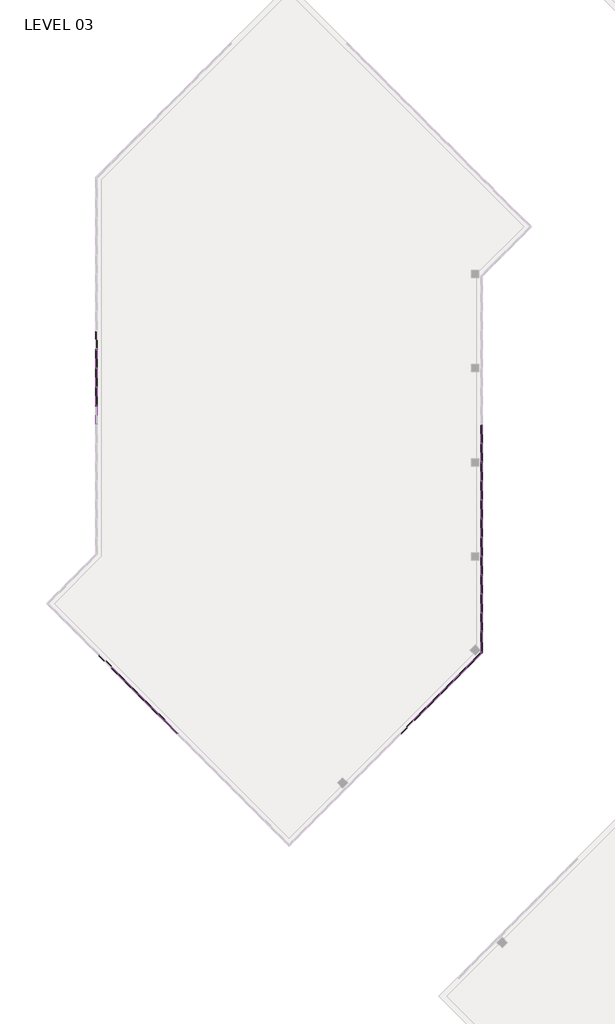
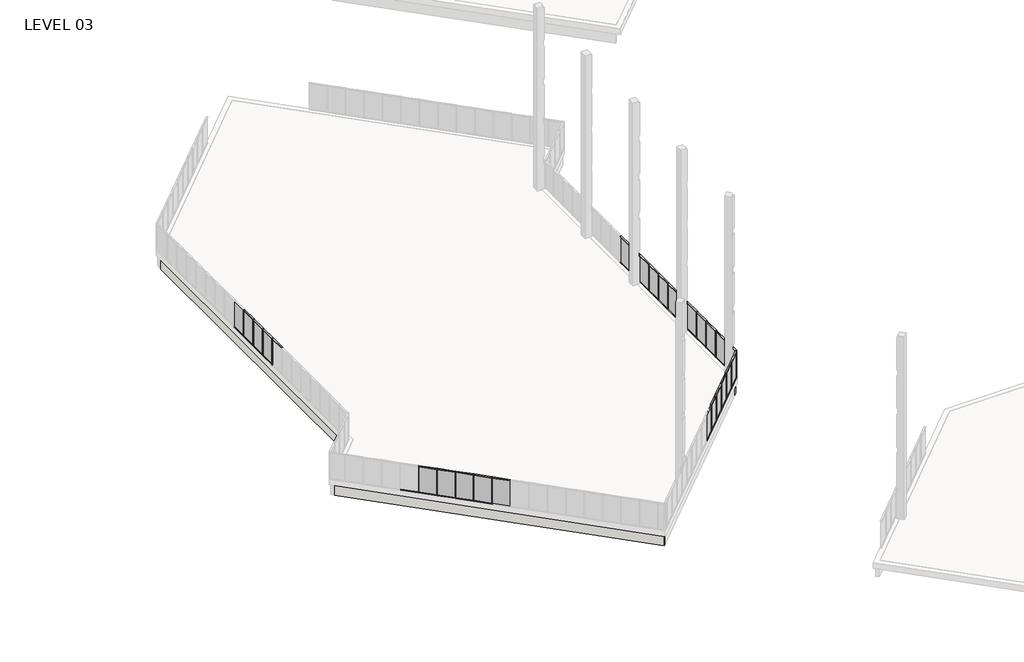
# One storey, part 4 of 18: 80 members, 27 plates, 3 walls.
"""IFC4 building model written with IfcOpenShell, lengths in millimetres."""

from ifc_helpers import new_model, si_unit, origin, place, context, project, spatial, faceted_brep, transform, mapped, element, save
from components import member_5247f267, member_e44af9ab, member_800970d4, member_c23f844a, member_1bd862b2, member_c975838b, member_ed9c17d6, plate_67294edd, plate_50b9cd61, plate_bbcbcabf, plate_db5d6751, plate_e0fd5134, plate_dca6a18a

model = new_model("IFC4")

# Units and contexts
model_context = context("Model", 3, world=origin())
ifc_project = project(units=[si_unit("LENGTHUNIT", "METRE", prefix="MILLI")], contexts=[model_context])

# Site, building, storey
site = spatial("IfcSite", under=ifc_project)
building = spatial("IfcBuilding", under=site)
storey = spatial("IfcBuildingStorey", under=building, Name="LEVEL 03", Elevation=8280.4)

# Members
placement = place(None, origin())
member_shape = member_5247f267(model_context)
element("IfcMember", 1, ObjectType="Rectangular Mullion : 2\" x 4.5\" rectangular", at=placement, inside=storey, context=model_context, shape_type="MappedRepresentation", body=[
    mapped(member_shape, transform((-1611.8847164, 49110.5675885, 10871.2), x_axis=(0.0, 0.0, 1.0), y_axis=(1.0, 0.0, 0.0), z_axis=(0.0, 1.0, 0.0))),
])
element("IfcMember", 2, ObjectType="Rectangular Mullion : 2\" x 4.5\" rectangular", at=placement, inside=storey, context=model_context, shape_type="MappedRepresentation", body=[
    mapped(member_shape, transform((-1611.8847164, 50634.5675885, 10871.2), x_axis=(0.0, 0.0, 1.0), y_axis=(1.0, 0.0, 0.0), z_axis=(0.0, 1.0, 0.0))),
])
element("IfcMember", 3, ObjectType="Rectangular Mullion : 2\" x 4.5\" rectangular", at=placement, inside=storey, context=model_context, shape_type="MappedRepresentation", body=[
    mapped(member_shape, transform((-1611.8847164, 52158.5675885, 10871.2), x_axis=(0.0, 0.0, 1.0), y_axis=(1.0, 0.0, 0.0), z_axis=(0.0, 1.0, 0.0))),
])
element("IfcMember", 4, ObjectType="Rectangular Mullion : 2\" x 4.5\" rectangular", at=placement, inside=storey, context=model_context, shape_type="MappedRepresentation", body=[
    mapped(member_shape, transform((-1611.8847164, 55206.5675885, 10871.2), x_axis=(0.0, 0.0, 1.0), y_axis=(1.0, 0.0, 0.0), z_axis=(0.0, 1.0, 0.0))),
])
element("IfcMember", 5, ObjectType="Rectangular Mullion : 2\" x 4.5\" rectangular", at=placement, inside=storey, context=model_context, shape_type="MappedRepresentation", body=[
    mapped(member_shape, transform((-1611.8847164, 56730.5675885, 10871.2), x_axis=(0.0, 0.0, 1.0), y_axis=(1.0, 0.0, 0.0), z_axis=(0.0, 1.0, 0.0))),
])
element("IfcMember", 6, ObjectType="Rectangular Mullion : 2\" x 4.5\" rectangular", at=placement, inside=storey, context=model_context, shape_type="MappedRepresentation", body=[
    mapped(member_shape, transform((-3866.0742688, 36048.0719005, 10871.2), x_axis=(0.0, 0.0, 1.0), y_axis=(-0.7071067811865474, 0.7071067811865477, 0.0), z_axis=(-0.7071067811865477, -0.7071067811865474, 0.0))),
])
element("IfcMember", 7, ObjectType="Rectangular Mullion : 2\" x 4.5\" rectangular", at=placement, inside=storey, context=model_context, shape_type="MappedRepresentation", body=[
    mapped(member_shape, transform((-4943.7050033, 34970.441166, 10871.2), x_axis=(0.0, 0.0, 1.0), y_axis=(-0.707106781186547, 0.707106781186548, 0.0), z_axis=(-0.707106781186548, -0.707106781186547, 0.0))),
])
element("IfcMember", 8, ObjectType="Rectangular Mullion : 2\" x 4.5\" rectangular", at=placement, inside=storey, context=model_context, shape_type="MappedRepresentation", body=[
    mapped(member_shape, transform((-6021.3357378, 33892.8104315, 10871.2), x_axis=(0.0, 0.0, 1.0), y_axis=(-0.7071067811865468, 0.7071067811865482, 0.0), z_axis=(-0.7071067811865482, -0.7071067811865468, 0.0))),
])
element("IfcMember", 9, ObjectType="Rectangular Mullion : 2\" x 4.5\" rectangular", at=placement, inside=storey, context=model_context, shape_type="MappedRepresentation", body=[
    mapped(member_shape, transform((-32784.0347164, 58254.5675885, 10871.2), x_axis=(0.0, 0.0, 1.0), y_axis=(1.0, 0.0, 0.0), z_axis=(0.0, 1.0, 0.0))),
])
element("IfcMember", 10, ObjectType="Rectangular Mullion : 2\" x 4.5\" rectangular", at=placement, inside=storey, context=model_context, shape_type="MappedRepresentation", body=[
    mapped(member_shape, transform((-32784.0347164, 59778.5675885, 10871.2), x_axis=(0.0, 0.0, 1.0), y_axis=(1.0, 0.0, 0.0), z_axis=(0.0, 1.0, 0.0))),
])
element("IfcMember", 11, ObjectType="Rectangular Mullion : 2\" x 4.5\" rectangular", at=placement, inside=storey, context=model_context, shape_type="MappedRepresentation", body=[
    mapped(member_shape, transform((-32784.0347164, 62826.5675885, 10871.2), x_axis=(0.0, 0.0, 1.0), y_axis=(1.0, 0.0, 0.0), z_axis=(0.0, 1.0, 0.0))),
])
element("IfcMember", 12, ObjectType="Rectangular Mullion : 2\" x 4.5\" rectangular", at=placement, inside=storey, context=model_context, shape_type="MappedRepresentation", body=[
    mapped(member_shape, transform((-32784.0347164, 61302.5675885, 10871.2), x_axis=(0.0, 0.0, 1.0), y_axis=(1.0, 0.0, 0.0), z_axis=(0.0, 1.0, 0.0))),
])
element("IfcMember", 13, ObjectType="Rectangular Mullion : 2\" x 4.5\" rectangular", at=placement, inside=storey, context=model_context, shape_type="MappedRepresentation", body=[
    mapped(member_shape, transform((-1611.8847164, 53682.5675885, 10871.2), x_axis=(0.0, 0.0, 1.0), y_axis=(1.0, 0.0, 0.0), z_axis=(0.0, 1.0, 0.0))),
])
element("IfcMember", 14, ObjectType="Rectangular Mullion : 2\" x 4.5\" rectangular", at=placement, inside=storey, context=model_context, shape_type="MappedRepresentation", body=[
    mapped(member_shape, transform((-1611.8847164, 47586.5675885, 10871.2), x_axis=(0.0, 0.0, 1.0), y_axis=(1.0, 0.0, 0.0), z_axis=(0.0, 1.0, 0.0))),
])
element("IfcMember", 15, ObjectType="Rectangular Mullion : 2\" x 4.5\" rectangular", at=placement, inside=storey, context=model_context, shape_type="MappedRepresentation", body=[
    mapped(member_shape, transform((-1611.8847164, 46062.5675885, 10871.2), x_axis=(0.0, 0.0, 1.0), y_axis=(1.0, 0.0, 0.0), z_axis=(0.0, 1.0, 0.0))),
])
element("IfcMember", 16, ObjectType="Rectangular Mullion : 2\" x 4.5\" rectangular", at=placement, inside=storey, context=model_context, shape_type="MappedRepresentation", body=[
    mapped(member_shape, transform((-1611.8847164, 44538.5675885, 10871.2), x_axis=(0.0, 0.0, 1.0), y_axis=(1.0, 0.0, 0.0), z_axis=(0.0, 1.0, 0.0))),
])
element("IfcMember", 17, ObjectType="Rectangular Mullion : 2\" x 4.5\" rectangular", at=placement, inside=storey, context=model_context, shape_type="MappedRepresentation", body=[
    mapped(member_shape, transform((-1611.8847164, 43014.5675885, 10871.2), x_axis=(0.0, 0.0, 1.0), y_axis=(1.0, 0.0, 0.0), z_axis=(0.0, 1.0, 0.0))),
])
element("IfcMember", 18, ObjectType="Rectangular Mullion : 2\" x 4.5\" rectangular", at=placement, inside=storey, context=model_context, shape_type="MappedRepresentation", body=[
    mapped(member_shape, transform((-1611.8847164, 41490.5675885, 10871.2), x_axis=(0.0, 0.0, 1.0), y_axis=(1.0, 0.0, 0.0), z_axis=(0.0, 1.0, 0.0))),
])
element("IfcMember", 19, ObjectType="Rectangular Mullion : 2\" x 4.5\" rectangular", at=placement, inside=storey, context=model_context, shape_type="MappedRepresentation", body=[
    mapped(member_shape, transform((-7098.9590715, 32815.1870978, 10871.2), x_axis=(0.0, 0.0, 1.0), y_axis=(-0.7071067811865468, 0.7071067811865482, 0.0), z_axis=(-0.7071067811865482, -0.7071067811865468, 0.0))),
])
element("IfcMember", 20, ObjectType="Rectangular Mullion : 2\" x 4.5\" rectangular", at=placement, inside=storey, context=model_context, shape_type="MappedRepresentation", body=[
    mapped(member_shape, transform((-1611.8847164, 49161.3675885, 8280.4), x_axis=(0.0, 0.0, -1.0), y_axis=(1.0, 0.0, 0.0), z_axis=(0.0, -1.0, 0.0))),
])
element("IfcMember", 21, ObjectType="Rectangular Mullion : 2\" x 4.5\" rectangular", at=placement, inside=storey, context=model_context, shape_type="MappedRepresentation", body=[
    mapped(member_shape, transform((-1611.8847164, 50685.3675885, 8280.4), x_axis=(0.0, 0.0, -1.0), y_axis=(1.0, 0.0, 0.0), z_axis=(0.0, -1.0, 0.0))),
])
element("IfcMember", 22, ObjectType="Rectangular Mullion : 2\" x 4.5\" rectangular", at=placement, inside=storey, context=model_context, shape_type="MappedRepresentation", body=[
    mapped(member_shape, transform((-1611.8847164, 52209.3675885, 8280.4), x_axis=(0.0, 0.0, -1.0), y_axis=(1.0, 0.0, 0.0), z_axis=(0.0, -1.0, 0.0))),
])
element("IfcMember", 23, ObjectType="Rectangular Mullion : 2\" x 4.5\" rectangular", at=placement, inside=storey, context=model_context, shape_type="MappedRepresentation", body=[
    mapped(member_shape, transform((-1611.8847164, 55257.3675885, 8280.4), x_axis=(0.0, 0.0, -1.0), y_axis=(1.0, 0.0, 0.0), z_axis=(0.0, -1.0, 0.0))),
])
element("IfcMember", 24, ObjectType="Rectangular Mullion : 2\" x 4.5\" rectangular", at=placement, inside=storey, context=model_context, shape_type="MappedRepresentation", body=[
    mapped(member_shape, transform((-3901.9952932, 36012.1508761, 8280.4), x_axis=(0.0, 0.0, -1.0), y_axis=(-0.7071067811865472, 0.7071067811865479, 0.0), z_axis=(0.7071067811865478, 0.7071067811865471, 0.0))),
])
element("IfcMember", 25, ObjectType="Rectangular Mullion : 2\" x 4.5\" rectangular", at=placement, inside=storey, context=model_context, shape_type="MappedRepresentation", body=[
    mapped(member_shape, transform((-4979.6260278, 34934.5201415, 8280.4), x_axis=(0.0, 0.0, -1.0), y_axis=(-0.7071067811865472, 0.7071067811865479, 0.0), z_axis=(0.7071067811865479, 0.7071067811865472, 0.0))),
])
element("IfcMember", 26, ObjectType="Rectangular Mullion : 2\" x 4.5\" rectangular", at=placement, inside=storey, context=model_context, shape_type="MappedRepresentation", body=[
    mapped(member_shape, transform((-6057.2567623, 33856.889407, 8280.4), x_axis=(0.0, 0.0, -1.0), y_axis=(-0.7071067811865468, 0.7071067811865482, 0.0), z_axis=(0.7071067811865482, 0.7071067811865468, 0.0))),
])
element("IfcMember", 27, ObjectType="Rectangular Mullion : 2\" x 4.5\" rectangular", at=placement, inside=storey, context=model_context, shape_type="MappedRepresentation", body=[
    mapped(member_shape, transform((-31583.4219356, 37101.6486721, 8280.4), x_axis=(0.0, 0.0, -1.0), y_axis=(0.7071067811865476, 0.7071067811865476, 0.0), z_axis=(0.7071067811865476, -0.7071067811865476, 0.0))),
])
element("IfcMember", 28, ObjectType="Rectangular Mullion : 2\" x 4.5\" rectangular", at=placement, inside=storey, context=model_context, shape_type="MappedRepresentation", body=[
    mapped(member_shape, transform((-32784.0347164, 58305.3675885, 8280.4), x_axis=(0.0, 0.0, -1.0), y_axis=(1.0, 0.0, 0.0), z_axis=(0.0, -1.0, 0.0))),
])
element("IfcMember", 29, ObjectType="Rectangular Mullion : 2\" x 4.5\" rectangular", at=placement, inside=storey, context=model_context, shape_type="MappedRepresentation", body=[
    mapped(member_shape, transform((-32784.0347164, 59829.3675885, 8280.4), x_axis=(0.0, 0.0, -1.0), y_axis=(1.0, 0.0, 0.0), z_axis=(0.0, -1.0, 0.0))),
])
element("IfcMember", 30, ObjectType="Rectangular Mullion : 2\" x 4.5\" rectangular", at=placement, inside=storey, context=model_context, shape_type="MappedRepresentation", body=[
    mapped(member_shape, transform((-32784.0347164, 62877.3675885, 8280.4), x_axis=(0.0, 0.0, -1.0), y_axis=(1.0, 0.0, 0.0), z_axis=(0.0, -1.0, 0.0))),
])
element("IfcMember", 31, ObjectType="Rectangular Mullion : 2\" x 4.5\" rectangular", at=placement, inside=storey, context=model_context, shape_type="MappedRepresentation", body=[
    mapped(member_shape, transform((-32784.0347164, 61353.3675885, 8280.4), x_axis=(0.0, 0.0, -1.0), y_axis=(1.0, 0.0, 0.0), z_axis=(0.0, -1.0, 0.0))),
])
element("IfcMember", 32, ObjectType="Rectangular Mullion : 2\" x 4.5\" rectangular", at=placement, inside=storey, context=model_context, shape_type="MappedRepresentation", body=[
    mapped(member_shape, transform((-1611.8847164, 53733.3675885, 8280.4), x_axis=(0.0, 0.0, -1.0), y_axis=(1.0, 0.0, 0.0), z_axis=(0.0, -1.0, 0.0))),
])
element("IfcMember", 33, ObjectType="Rectangular Mullion : 2\" x 4.5\" rectangular", at=placement, inside=storey, context=model_context, shape_type="MappedRepresentation", body=[
    mapped(member_shape, transform((-1611.8847164, 47637.3675885, 8280.4), x_axis=(0.0, 0.0, -1.0), y_axis=(1.0, 0.0, 0.0), z_axis=(0.0, -1.0, 0.0))),
])
element("IfcMember", 34, ObjectType="Rectangular Mullion : 2\" x 4.5\" rectangular", at=placement, inside=storey, context=model_context, shape_type="MappedRepresentation", body=[
    mapped(member_shape, transform((-1611.8847164, 46113.3675885, 8280.4), x_axis=(0.0, 0.0, -1.0), y_axis=(1.0, 0.0, 0.0), z_axis=(0.0, -1.0, 0.0))),
])
element("IfcMember", 35, ObjectType="Rectangular Mullion : 2\" x 4.5\" rectangular", at=placement, inside=storey, context=model_context, shape_type="MappedRepresentation", body=[
    mapped(member_shape, transform((-1611.8847164, 44589.3675885, 8280.4), x_axis=(0.0, 0.0, -1.0), y_axis=(1.0, 0.0, 0.0), z_axis=(0.0, -1.0, 0.0))),
])
element("IfcMember", 36, ObjectType="Rectangular Mullion : 2\" x 4.5\" rectangular", at=placement, inside=storey, context=model_context, shape_type="MappedRepresentation", body=[
    mapped(member_shape, transform((-1611.8847164, 43065.3675885, 8280.4), x_axis=(0.0, 0.0, -1.0), y_axis=(1.0, 0.0, 0.0), z_axis=(0.0, -1.0, 0.0))),
])
element("IfcMember", 37, ObjectType="Rectangular Mullion : 2\" x 4.5\" rectangular", at=placement, inside=storey, context=model_context, shape_type="MappedRepresentation", body=[
    mapped(member_shape, transform((-1611.8847164, 41541.3675885, 8280.4), x_axis=(0.0, 0.0, -1.0), y_axis=(1.0, 0.0, 0.0), z_axis=(0.0, -1.0, 0.0))),
])
element("IfcMember", 38, ObjectType="Rectangular Mullion : 2\" x 4.5\" rectangular", at=placement, inside=storey, context=model_context, shape_type="MappedRepresentation", body=[
    mapped(member_shape, transform((-1611.8847164, 40017.3675885, 8280.4), x_axis=(0.0, 0.0, -1.0), y_axis=(1.0, 0.0, 0.0), z_axis=(0.0, -1.0, 0.0))),
])
element("IfcMember", 39, ObjectType="Rectangular Mullion : 2\" x 4.5\" rectangular", at=placement, inside=storey, context=model_context, shape_type="MappedRepresentation", body=[
    mapped(member_shape, transform((-2824.3645587, 37089.7816106, 8280.4), x_axis=(0.0, 0.0, -1.0), y_axis=(-0.707106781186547, 0.7071067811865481, 0.0), z_axis=(0.707106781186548, 0.7071067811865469, 0.0))),
])
element("IfcMember", 40, ObjectType="Rectangular Mullion : 2\" x 4.5\" rectangular", at=placement, inside=storey, context=model_context, shape_type="MappedRepresentation", body=[
    mapped(member_shape, transform((-7134.880096, 32779.2660733, 8280.4), x_axis=(0.0, 0.0, -1.0), y_axis=(-0.7071067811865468, 0.7071067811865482, 0.0), z_axis=(0.7071067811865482, 0.7071067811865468, 0.0))),
])
member_2_shape = member_e44af9ab(model_context)
element("IfcMember", 41, ObjectType="Rectangular Mullion : 2\" x 4.5\" rectangular", at=placement, inside=storey, context=model_context, shape_type="MappedRepresentation", body=[
    mapped(member_2_shape, transform((-1611.8847164, 49135.9675885, 8280.4), x_axis=(0.0, 1.0, 0.0), y_axis=(1.0, 0.0, 0.0), z_axis=(0.0, 0.0, -1.0))),
])
element("IfcMember", 42, ObjectType="Rectangular Mullion : 2\" x 4.5\" rectangular", at=placement, inside=storey, context=model_context, shape_type="MappedRepresentation", body=[
    mapped(member_2_shape, transform((-1611.8847164, 50659.9675885, 8280.4), x_axis=(0.0, 1.0, 0.0), y_axis=(1.0, 0.0, 0.0), z_axis=(0.0, 0.0, -1.0))),
])
element("IfcMember", 43, ObjectType="Rectangular Mullion : 2\" x 4.5\" rectangular", at=placement, inside=storey, context=model_context, shape_type="MappedRepresentation", body=[
    mapped(member_2_shape, transform((-1611.8847164, 52183.9675885, 8280.4), x_axis=(0.0, 1.0, 0.0), y_axis=(1.0, 0.0, 0.0), z_axis=(0.0, 0.0, -1.0))),
])
element("IfcMember", 44, ObjectType="Rectangular Mullion : 2\" x 4.5\" rectangular", at=placement, inside=storey, context=model_context, shape_type="MappedRepresentation", body=[
    mapped(member_2_shape, transform((-1611.8847164, 55231.9675885, 8280.4), x_axis=(0.0, 1.0, 0.0), y_axis=(1.0, 0.0, 0.0), z_axis=(0.0, 0.0, -1.0))),
])
element("IfcMember", 45, ObjectType="Rectangular Mullion : 2\" x 4.5\" rectangular", at=placement, inside=storey, context=model_context, shape_type="MappedRepresentation", body=[
    mapped(member_2_shape, transform((-3884.034781, 36030.1113883, 8280.4), x_axis=(-0.7071067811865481, -0.7071067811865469, 0.0), y_axis=(-0.7071067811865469, 0.7071067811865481, 0.0), z_axis=(0.0, 0.0, -1.0))),
])
element("IfcMember", 46, ObjectType="Rectangular Mullion : 2\" x 4.5\" rectangular", at=placement, inside=storey, context=model_context, shape_type="MappedRepresentation", body=[
    mapped(member_2_shape, transform((-4961.6655155, 34952.4806538, 8280.4), x_axis=(-0.7071067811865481, -0.7071067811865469, 0.0), y_axis=(-0.7071067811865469, 0.7071067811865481, 0.0), z_axis=(0.0, 0.0, -1.0))),
])
element("IfcMember", 47, ObjectType="Rectangular Mullion : 2\" x 4.5\" rectangular", at=placement, inside=storey, context=model_context, shape_type="MappedRepresentation", body=[
    mapped(member_2_shape, transform((-6039.2962501, 33874.8499192, 8280.4), x_axis=(-0.7071067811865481, -0.7071067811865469, 0.0), y_axis=(-0.7071067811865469, 0.7071067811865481, 0.0), z_axis=(0.0, 0.0, -1.0))),
])
element("IfcMember", 48, ObjectType="Rectangular Mullion : 2\" x 4.5\" rectangular", at=placement, inside=storey, context=model_context, shape_type="MappedRepresentation", body=[
    mapped(member_2_shape, transform((-28350.531194, 33868.7579305, 8280.4), x_axis=(-0.7071067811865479, 0.7071067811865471, 0.0), y_axis=(0.7071067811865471, 0.7071067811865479, 0.0), z_axis=(0.0, 0.0, -1.0))),
])
element("IfcMember", 49, ObjectType="Rectangular Mullion : 2\" x 4.5\" rectangular", at=placement, inside=storey, context=model_context, shape_type="MappedRepresentation", body=[
    mapped(member_2_shape, transform((-29422.1746038, 34940.4013403, 8280.4), x_axis=(-0.7071067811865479, 0.7071067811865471, 0.0), y_axis=(0.7071067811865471, 0.7071067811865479, 0.0), z_axis=(0.0, 0.0, -1.0))),
])
element("IfcMember", 50, ObjectType="Rectangular Mullion : 2\" x 4.5\" rectangular", at=placement, inside=storey, context=model_context, shape_type="MappedRepresentation", body=[
    mapped(member_2_shape, transform((-30493.8180136, 36012.0447501, 8280.4), x_axis=(-0.7071067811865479, 0.7071067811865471, 0.0), y_axis=(0.7071067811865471, 0.7071067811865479, 0.0), z_axis=(0.0, 0.0, -1.0))),
])
element("IfcMember", 51, ObjectType="Rectangular Mullion : 2\" x 4.5\" rectangular", at=placement, inside=storey, context=model_context, shape_type="MappedRepresentation", body=[
    mapped(member_2_shape, transform((-31565.4614234, 37083.6881599, 8280.4), x_axis=(-0.7071067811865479, 0.7071067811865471, 0.0), y_axis=(0.7071067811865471, 0.7071067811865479, 0.0), z_axis=(0.0, 0.0, -1.0))),
])
element("IfcMember", 52, ObjectType="Rectangular Mullion : 2\" x 4.5\" rectangular", at=placement, inside=storey, context=model_context, shape_type="MappedRepresentation", body=[
    mapped(member_2_shape, transform((-32784.0347164, 58279.9675885, 8280.4), x_axis=(0.0, 1.0, 0.0), y_axis=(1.0, 0.0, 0.0), z_axis=(0.0, 0.0, -1.0))),
])
element("IfcMember", 53, ObjectType="Rectangular Mullion : 2\" x 4.5\" rectangular", at=placement, inside=storey, context=model_context, shape_type="MappedRepresentation", body=[
    mapped(member_2_shape, transform((-32784.0347164, 59803.9675885, 8280.4), x_axis=(0.0, 1.0, 0.0), y_axis=(1.0, 0.0, 0.0), z_axis=(0.0, 0.0, -1.0))),
])
element("IfcMember", 54, ObjectType="Rectangular Mullion : 2\" x 4.5\" rectangular", at=placement, inside=storey, context=model_context, shape_type="MappedRepresentation", body=[
    mapped(member_2_shape, transform((-32784.0347164, 62851.9675885, 8280.4), x_axis=(0.0, 1.0, 0.0), y_axis=(1.0, 0.0, 0.0), z_axis=(0.0, 0.0, -1.0))),
])
element("IfcMember", 55, ObjectType="Rectangular Mullion : 2\" x 4.5\" rectangular", at=placement, inside=storey, context=model_context, shape_type="MappedRepresentation", body=[
    mapped(member_2_shape, transform((-32784.0347164, 61327.9675885, 8280.4), x_axis=(0.0, 1.0, 0.0), y_axis=(1.0, 0.0, 0.0), z_axis=(0.0, 0.0, -1.0))),
])
element("IfcMember", 56, ObjectType="Rectangular Mullion : 2\" x 4.5\" rectangular", at=placement, inside=storey, context=model_context, shape_type="MappedRepresentation", body=[
    mapped(member_2_shape, transform((-1611.8847164, 53707.9675885, 8280.4), x_axis=(0.0, 1.0, 0.0), y_axis=(1.0, 0.0, 0.0), z_axis=(0.0, 0.0, -1.0))),
])
element("IfcMember", 57, ObjectType="Rectangular Mullion : 2\" x 4.5\" rectangular", at=placement, inside=storey, context=model_context, shape_type="MappedRepresentation", body=[
    mapped(member_2_shape, transform((-1611.8847164, 47611.9675885, 8280.4), x_axis=(0.0, 1.0, 0.0), y_axis=(1.0, 0.0, 0.0), z_axis=(0.0, 0.0, -1.0))),
])
element("IfcMember", 58, ObjectType="Rectangular Mullion : 2\" x 4.5\" rectangular", at=placement, inside=storey, context=model_context, shape_type="MappedRepresentation", body=[
    mapped(member_2_shape, transform((-1611.8847164, 46087.9675885, 8280.4), x_axis=(0.0, 1.0, 0.0), y_axis=(1.0, 0.0, 0.0), z_axis=(0.0, 0.0, -1.0))),
])
element("IfcMember", 59, ObjectType="Rectangular Mullion : 2\" x 4.5\" rectangular", at=placement, inside=storey, context=model_context, shape_type="MappedRepresentation", body=[
    mapped(member_2_shape, transform((-1611.8847164, 44563.9675885, 8280.4), x_axis=(0.0, 1.0, 0.0), y_axis=(1.0, 0.0, 0.0), z_axis=(0.0, 0.0, -1.0))),
])
element("IfcMember", 60, ObjectType="Rectangular Mullion : 2\" x 4.5\" rectangular", at=placement, inside=storey, context=model_context, shape_type="MappedRepresentation", body=[
    mapped(member_2_shape, transform((-1611.8847164, 43039.9675885, 8280.4), x_axis=(0.0, 1.0, 0.0), y_axis=(1.0, 0.0, 0.0), z_axis=(0.0, 0.0, -1.0))),
])
element("IfcMember", 61, ObjectType="Rectangular Mullion : 2\" x 4.5\" rectangular", at=placement, inside=storey, context=model_context, shape_type="MappedRepresentation", body=[
    mapped(member_2_shape, transform((-1611.8847164, 41515.9675885, 8280.4), x_axis=(0.0, 1.0, 0.0), y_axis=(1.0, 0.0, 0.0), z_axis=(0.0, 0.0, -1.0))),
])
element("IfcMember", 62, ObjectType="Rectangular Mullion : 2\" x 4.5\" rectangular", at=placement, inside=storey, context=model_context, shape_type="MappedRepresentation", body=[
    mapped(member_2_shape, transform((-1611.8847164, 39991.9675885, 8280.4), x_axis=(0.0, 1.0, 0.0), y_axis=(1.0, 0.0, 0.0), z_axis=(0.0, 0.0, -1.0))),
])
element("IfcMember", 63, ObjectType="Rectangular Mullion : 2\" x 4.5\" rectangular", at=placement, inside=storey, context=model_context, shape_type="MappedRepresentation", body=[
    mapped(member_2_shape, transform((-2806.4040465, 37107.7421228, 8280.4), x_axis=(-0.7071067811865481, -0.7071067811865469, 0.0), y_axis=(-0.7071067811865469, 0.7071067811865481, 0.0), z_axis=(0.0, 0.0, -1.0))),
])
element("IfcMember", 64, ObjectType="Rectangular Mullion : 2\" x 4.5\" rectangular", at=placement, inside=storey, context=model_context, shape_type="MappedRepresentation", body=[
    mapped(member_2_shape, transform((-7116.9195837, 32797.2265856, 8280.4), x_axis=(-0.7071067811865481, -0.7071067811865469, 0.0), y_axis=(-0.7071067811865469, 0.7071067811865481, 0.0), z_axis=(0.0, 0.0, -1.0))),
])
element("IfcMember", 65, ObjectType="Rectangular Mullion : 2\" x 4.5\" rectangular", at=placement, inside=storey, context=model_context, shape_type="MappedRepresentation", body=[
    mapped(member_2_shape, transform((-27275.9119891, 32794.1387256, 8280.4), x_axis=(-0.7071067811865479, 0.7071067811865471, 0.0), y_axis=(0.7071067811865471, 0.7071067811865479, 0.0), z_axis=(0.0, 0.0, -1.0))),
])
member_3_shape = member_800970d4(model_context)
element("IfcMember", 66, ObjectType="Rectangular Mullion : 2\" x 4.5\" rectangular", at=placement, inside=storey, context=model_context, shape_type="MappedRepresentation", body=[
    mapped(member_3_shape, transform((-1611.8847164, 38302.2614529, 10871.2), x_axis=(0.0, -1.0, 0.0), y_axis=(1.0, 0.0, 0.0), z_axis=(0.0, 0.0, 1.0))),
])
element("IfcMember", 67, ObjectType="Rectangular Mullion : 2\" x 4.5\" rectangular", at=placement, inside=storey, context=model_context, shape_type="MappedRepresentation", body=[
    mapped(member_3_shape, transform((-1611.8847164, 38302.2614529, 10871.2), x_axis=(0.7071067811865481, 0.7071067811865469, 0.0), y_axis=(-0.7071067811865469, 0.7071067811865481, 0.0), z_axis=(0.0, 0.0, 1.0))),
])
member_4_shape = member_c23f844a(model_context)
element("IfcMember", 68, ObjectType="Rectangular Mullion : 2\" x 4.5\" rectangular", at=placement, inside=storey, context=model_context, shape_type="MappedRepresentation", body=[
    mapped(member_4_shape, transform((-29404.2140916, 34922.4408281, 10871.2), x_axis=(0.0, 0.0, 1.0), y_axis=(0.7071067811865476, 0.7071067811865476, 0.0), z_axis=(-0.7071067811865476, 0.7071067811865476, 0.0))),
])
element("IfcMember", 69, ObjectType="Rectangular Mullion : 2\" x 4.5\" rectangular", at=placement, inside=storey, context=model_context, shape_type="MappedRepresentation", body=[
    mapped(member_4_shape, transform((-30475.8575014, 35994.0842378, 10871.2), x_axis=(0.0, 0.0, 1.0), y_axis=(0.7071067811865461, 0.707106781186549, 0.0), z_axis=(-0.707106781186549, 0.7071067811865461, 0.0))),
])
element("IfcMember", 70, ObjectType="Rectangular Mullion : 2\" x 4.5\" rectangular", at=placement, inside=storey, context=model_context, shape_type="MappedRepresentation", body=[
    mapped(member_4_shape, transform((-31547.5009111, 37065.7276476, 10871.2), x_axis=(0.0, 0.0, 1.0), y_axis=(0.7071067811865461, 0.707106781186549, 0.0), z_axis=(-0.7071067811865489, 0.707106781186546, 0.0))),
])
element("IfcMember", 71, ObjectType="Rectangular Mullion : 2\" x 4.5\" rectangular", at=placement, inside=storey, context=model_context, shape_type="MappedRepresentation", body=[
    mapped(member_4_shape, transform((-28368.4917063, 33886.7184427, 8280.4), x_axis=(0.0, 0.0, -1.0), y_axis=(0.707106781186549, 0.7071067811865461, 0.0), z_axis=(0.707106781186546, -0.7071067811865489, 0.0))),
])
element("IfcMember", 72, ObjectType="Rectangular Mullion : 2\" x 4.5\" rectangular", at=placement, inside=storey, context=model_context, shape_type="MappedRepresentation", body=[
    mapped(member_4_shape, transform((-29440.135116, 34958.3618525, 8280.4), x_axis=(0.0, 0.0, -1.0), y_axis=(0.7071067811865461, 0.707106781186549, 0.0), z_axis=(0.707106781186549, -0.7071067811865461, 0.0))),
])
element("IfcMember", 73, ObjectType="Rectangular Mullion : 2\" x 4.5\" rectangular", at=placement, inside=storey, context=model_context, shape_type="MappedRepresentation", body=[
    mapped(member_4_shape, transform((-30511.7785258, 36030.0052623, 8280.4), x_axis=(0.0, 0.0, -1.0), y_axis=(0.7071067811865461, 0.707106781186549, 0.0), z_axis=(0.7071067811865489, -0.707106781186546, 0.0))),
])
member_5_shape = member_1bd862b2(model_context)
element("IfcMember", 74, ObjectType="Rectangular Mullion : 2\" x 4.5\" rectangular", at=placement, inside=storey, context=model_context, shape_type="MappedRepresentation", body=[
    mapped(member_5_shape, transform((-1611.8847164, 38353.0614529, 8280.4), x_axis=(0.0, 0.0, -1.0), y_axis=(1.0, 0.0, 0.0), z_axis=(0.0, -1.0, 0.0))),
])
element("IfcMember", 75, ObjectType="Rectangular Mullion : 2\" x 4.5\" rectangular", at=placement, inside=storey, context=model_context, shape_type="MappedRepresentation", body=[
    mapped(member_5_shape, transform((-1611.8847164, 39966.5675885, 10871.2), x_axis=(0.0, 0.0, 1.0), y_axis=(1.0, 0.0, 0.0), z_axis=(0.0, 1.0, 0.0))),
])
member_6_shape = member_c975838b(model_context)
element("IfcMember", 76, ObjectType="Rectangular Mullion : 2\" x 4.5\" rectangular", at=placement, inside=storey, context=model_context, shape_type="MappedRepresentation", body=[
    mapped(member_6_shape, transform((-1647.8057409, 38266.3404284, 8280.4), x_axis=(0.0, 0.0, -1.0), y_axis=(-0.7071067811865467, 0.7071067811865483, 0.0), z_axis=(0.7071067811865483, 0.7071067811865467, 0.0))),
])
element("IfcMember", 77, ObjectType="Rectangular Mullion : 2\" x 4.5\" rectangular", at=placement, inside=storey, context=model_context, shape_type="MappedRepresentation", body=[
    mapped(member_6_shape, transform((-2788.4435342, 37125.7026351, 10871.2), x_axis=(0.0, 0.0, 1.0), y_axis=(-0.7071067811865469, 0.7071067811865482, 0.0), z_axis=(-0.7071067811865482, -0.7071067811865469, 0.0))),
])
member_7_shape = member_ed9c17d6(model_context)
element("IfcMember", 78, ObjectType="Rectangular Mullion : 2\" x 4.5\" rectangular", at=placement, inside=storey, context=model_context, shape_type="MappedRepresentation", body=[
    mapped(member_7_shape, transform((-28332.5706818, 33850.7974183, 10871.2), x_axis=(0.0, 0.0, 1.0), y_axis=(0.7071067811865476, 0.7071067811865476, 0.0), z_axis=(-0.7071067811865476, 0.7071067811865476, 0.0))),
])
element("IfcMember", 79, ObjectType="Rectangular Mullion : 2\" x 4.5\" rectangular", at=placement, inside=storey, context=model_context, shape_type="MappedRepresentation", body=[
    mapped(member_7_shape, transform((-27257.9514769, 32776.1782134, 10871.2), x_axis=(0.0, 0.0, 1.0), y_axis=(0.7071067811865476, 0.7071067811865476, 0.0), z_axis=(-0.7071067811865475, 0.7071067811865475, 0.0))),
])
element("IfcMember", 80, ObjectType="Rectangular Mullion : 2\" x 4.5\" rectangular", at=placement, inside=storey, context=model_context, shape_type="MappedRepresentation", body=[
    mapped(member_7_shape, transform((-27293.8725014, 32812.0992378, 8280.4), x_axis=(0.0, 0.0, -1.0), y_axis=(0.7071067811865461, 0.7071067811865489, 0.0), z_axis=(0.7071067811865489, -0.7071067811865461, 0.0))),
])

# Plates
plate_shape = plate_67294edd(model_context)
element("IfcPlate", 81, ObjectType="System Panel : 1/4\" Glass", at=placement, inside=storey, context=model_context, shape_type="MappedRepresentation", body=[
    mapped(plate_shape, transform((-1611.8847164, 49897.9675885, 8331.2), x_axis=(0.0, 1.0, 0.0), y_axis=(-1.0, 0.0, 0.0), z_axis=(0.0, 0.0, 1.0))),
])
element("IfcPlate", 82, ObjectType="System Panel : 1/4\" Glass", at=placement, inside=storey, context=model_context, shape_type="MappedRepresentation", body=[
    mapped(plate_shape, transform((-1611.8847164, 51421.9675885, 8331.2), x_axis=(0.0, 1.0, 0.0), y_axis=(-1.0, 0.0, 0.0), z_axis=(0.0, 0.0, 1.0))),
])
element("IfcPlate", 83, ObjectType="System Panel : 1/4\" Glass", at=placement, inside=storey, context=model_context, shape_type="MappedRepresentation", body=[
    mapped(plate_shape, transform((-1611.8847164, 52945.9675885, 8331.2), x_axis=(0.0, 1.0, 0.0), y_axis=(-1.0, 0.0, 0.0), z_axis=(0.0, 0.0, 1.0))),
])
element("IfcPlate", 84, ObjectType="System Panel : 1/4\" Glass", at=placement, inside=storey, context=model_context, shape_type="MappedRepresentation", body=[
    mapped(plate_shape, transform((-1611.8847164, 55993.9675885, 8331.2), x_axis=(0.0, 1.0, 0.0), y_axis=(-1.0, 0.0, 0.0), z_axis=(0.0, 0.0, 1.0))),
])
element("IfcPlate", 85, ObjectType="System Panel : 1/4\" Glass", at=placement, inside=storey, context=model_context, shape_type="MappedRepresentation", body=[
    mapped(plate_shape, transform((-4422.8501483, 35491.296021, 8331.2), x_axis=(-0.7071067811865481, -0.7071067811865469, 0.0), y_axis=(0.7071067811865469, -0.7071067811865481, 0.0), z_axis=(0.0, 0.0, 1.0))),
])
element("IfcPlate", 86, ObjectType="System Panel : 1/4\" Glass", at=placement, inside=storey, context=model_context, shape_type="MappedRepresentation", body=[
    mapped(plate_shape, transform((-5500.4808828, 34413.6652865, 8331.2), x_axis=(-0.7071067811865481, -0.7071067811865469, 0.0), y_axis=(0.7071067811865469, -0.7071067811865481, 0.0), z_axis=(0.0, 0.0, 1.0))),
])
element("IfcPlate", 87, ObjectType="System Panel : 1/4\" Glass", at=placement, inside=storey, context=model_context, shape_type="MappedRepresentation", body=[
    mapped(plate_shape, transform((-32784.0347164, 59041.9675885, 8331.2), x_axis=(0.0, 1.0, 0.0), y_axis=(-1.0, 0.0, 0.0), z_axis=(0.0, 0.0, 1.0))),
])
element("IfcPlate", 88, ObjectType="System Panel : 1/4\" Glass", at=placement, inside=storey, context=model_context, shape_type="MappedRepresentation", body=[
    mapped(plate_shape, transform((-32784.0347164, 60565.9675885, 8331.2), x_axis=(0.0, 1.0, 0.0), y_axis=(-1.0, 0.0, 0.0), z_axis=(0.0, 0.0, 1.0))),
])
element("IfcPlate", 89, ObjectType="System Panel : 1/4\" Glass", at=placement, inside=storey, context=model_context, shape_type="MappedRepresentation", body=[
    mapped(plate_shape, transform((-32784.0347164, 63613.9675885, 8331.2), x_axis=(0.0, 1.0, 0.0), y_axis=(-1.0, 0.0, 0.0), z_axis=(0.0, 0.0, 1.0))),
])
element("IfcPlate", 90, ObjectType="System Panel : 1/4\" Glass", at=placement, inside=storey, context=model_context, shape_type="MappedRepresentation", body=[
    mapped(plate_shape, transform((-32784.0347164, 62089.9675885, 8331.2), x_axis=(0.0, 1.0, 0.0), y_axis=(-1.0, 0.0, 0.0), z_axis=(0.0, 0.0, 1.0))),
])
element("IfcPlate", 91, ObjectType="System Panel : 1/4\" Glass", at=placement, inside=storey, context=model_context, shape_type="MappedRepresentation", body=[
    mapped(plate_shape, transform((-1611.8847164, 54469.9675885, 8331.2), x_axis=(0.0, 1.0, 0.0), y_axis=(-1.0, 0.0, 0.0), z_axis=(0.0, 0.0, 1.0))),
])
element("IfcPlate", 92, ObjectType="System Panel : 1/4\" Glass", at=placement, inside=storey, context=model_context, shape_type="MappedRepresentation", body=[
    mapped(plate_shape, transform((-1611.8847164, 48373.9675885, 8331.2), x_axis=(0.0, 1.0, 0.0), y_axis=(-1.0, 0.0, 0.0), z_axis=(0.0, 0.0, 1.0))),
])
element("IfcPlate", 93, ObjectType="System Panel : 1/4\" Glass", at=placement, inside=storey, context=model_context, shape_type="MappedRepresentation", body=[
    mapped(plate_shape, transform((-1611.8847164, 46849.9675885, 8331.2), x_axis=(0.0, 1.0, 0.0), y_axis=(-1.0, 0.0, 0.0), z_axis=(0.0, 0.0, 1.0))),
])
element("IfcPlate", 94, ObjectType="System Panel : 1/4\" Glass", at=placement, inside=storey, context=model_context, shape_type="MappedRepresentation", body=[
    mapped(plate_shape, transform((-1611.8847164, 45325.9675885, 8331.2), x_axis=(0.0, 1.0, 0.0), y_axis=(-1.0, 0.0, 0.0), z_axis=(0.0, 0.0, 1.0))),
])
element("IfcPlate", 95, ObjectType="System Panel : 1/4\" Glass", at=placement, inside=storey, context=model_context, shape_type="MappedRepresentation", body=[
    mapped(plate_shape, transform((-1611.8847164, 43801.9675885, 8331.2), x_axis=(0.0, 1.0, 0.0), y_axis=(-1.0, 0.0, 0.0), z_axis=(0.0, 0.0, 1.0))),
])
element("IfcPlate", 96, ObjectType="System Panel : 1/4\" Glass", at=placement, inside=storey, context=model_context, shape_type="MappedRepresentation", body=[
    mapped(plate_shape, transform((-1611.8847164, 42277.9675885, 8331.2), x_axis=(0.0, 1.0, 0.0), y_axis=(-1.0, 0.0, 0.0), z_axis=(0.0, 0.0, 1.0))),
])
element("IfcPlate", 97, ObjectType="System Panel : 1/4\" Glass", at=placement, inside=storey, context=model_context, shape_type="MappedRepresentation", body=[
    mapped(plate_shape, transform((-1611.8847164, 40753.9675885, 8331.2), x_axis=(0.0, 1.0, 0.0), y_axis=(-1.0, 0.0, 0.0), z_axis=(0.0, 0.0, 1.0))),
])
element("IfcPlate", 98, ObjectType="System Panel : 1/4\" Glass", at=placement, inside=storey, context=model_context, shape_type="MappedRepresentation", body=[
    mapped(plate_shape, transform((-3345.2194137, 36568.9267556, 8331.2), x_axis=(-0.7071067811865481, -0.7071067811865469, 0.0), y_axis=(0.7071067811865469, -0.7071067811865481, 0.0), z_axis=(0.0, 0.0, 1.0))),
])
plate_2_shape = plate_50b9cd61(model_context)
element("IfcPlate", 99, ObjectType="System Panel : 1/4\" Glass", at=placement, inside=storey, context=model_context, shape_type="MappedRepresentation", body=[
    mapped(plate_2_shape, transform((-28886.3528989, 34404.5796354, 8331.2), x_axis=(-0.7071067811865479, 0.7071067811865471, 0.0), y_axis=(-0.7071067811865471, -0.7071067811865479, 0.0), z_axis=(0.0, 0.0, 1.0))),
])
element("IfcPlate", 100, ObjectType="System Panel : 1/4\" Glass", at=placement, inside=storey, context=model_context, shape_type="MappedRepresentation", body=[
    mapped(plate_2_shape, transform((-29957.9963087, 35476.2230452, 8331.2), x_axis=(-0.7071067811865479, 0.7071067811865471, 0.0), y_axis=(-0.7071067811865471, -0.7071067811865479, 0.0), z_axis=(0.0, 0.0, 1.0))),
])
element("IfcPlate", 101, ObjectType="System Panel : 1/4\" Glass", at=placement, inside=storey, context=model_context, shape_type="MappedRepresentation", body=[
    mapped(plate_2_shape, transform((-31029.6397185, 36547.866455, 8331.2), x_axis=(-0.7071067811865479, 0.7071067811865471, 0.0), y_axis=(-0.7071067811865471, -0.7071067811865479, 0.0), z_axis=(0.0, 0.0, 1.0))),
])
plate_3_shape = plate_bbcbcabf(model_context)
element("IfcPlate", 102, ObjectType="System Panel : 1/4\" Glass", at=placement, inside=storey, context=model_context, shape_type="MappedRepresentation", body=[
    mapped(plate_3_shape, transform((-1611.8847164, 39159.8145207, 8331.2), x_axis=(0.0, 1.0, 0.0), y_axis=(-1.0, 0.0, 0.0), z_axis=(0.0, 0.0, 1.0))),
])
plate_4_shape = plate_db5d6751(model_context)
element("IfcPlate", 103, ObjectType="System Panel : 1/4\" Glass", at=placement, inside=storey, context=model_context, shape_type="MappedRepresentation", body=[
    mapped(plate_4_shape, transform((-2218.1246376, 37696.0215317, 8331.2), x_axis=(-0.7071067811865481, -0.7071067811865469, 0.0), y_axis=(0.7071067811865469, -0.7071067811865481, 0.0), z_axis=(0.0, 0.0, 1.0))),
])
plate_5_shape = plate_e0fd5134(model_context)
element("IfcPlate", 104, ObjectType="System Panel : 1/4\" Glass", at=placement, inside=storey, context=model_context, shape_type="MappedRepresentation", body=[
    mapped(plate_5_shape, transform((-6578.1079169, 33336.0382524, 8331.2), x_axis=(-0.7071067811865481, -0.7071067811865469, 0.0), y_axis=(0.7071067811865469, -0.7071067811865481, 0.0), z_axis=(0.0, 0.0, 1.0))),
])
element("IfcPlate", 105, ObjectType="System Panel : 1/4\" Glass", at=placement, inside=storey, context=model_context, shape_type="MappedRepresentation", body=[
    mapped(plate_5_shape, transform((-7655.7312505, 32258.4149187, 8331.2), x_axis=(-0.7071067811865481, -0.7071067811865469, 0.0), y_axis=(0.7071067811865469, -0.7071067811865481, 0.0), z_axis=(0.0, 0.0, 1.0))),
])
plate_6_shape = plate_dca6a18a(model_context)
element("IfcPlate", 106, ObjectType="System Panel : 1/4\" Glass", at=placement, inside=storey, context=model_context, shape_type="MappedRepresentation", body=[
    mapped(plate_6_shape, transform((-26738.6023867, 32256.8291232, 8331.2), x_axis=(-0.7071067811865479, 0.7071067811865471, 0.0), y_axis=(-0.7071067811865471, -0.7071067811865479, 0.0), z_axis=(0.0, 0.0, 1.0))),
])
element("IfcPlate", 107, ObjectType="System Panel : 1/4\" Glass", at=placement, inside=storey, context=model_context, shape_type="MappedRepresentation", body=[
    mapped(plate_6_shape, transform((-27813.2215916, 33331.4483281, 8331.2), x_axis=(-0.7071067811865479, 0.7071067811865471, 0.0), y_axis=(-0.7071067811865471, -0.7071067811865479, 0.0), z_axis=(0.0, 0.0, 1.0))),
])

# Walls
element("IfcWall", 108, ObjectType="01-CONCRETE-12", at=placement, inside=storey, context=model_context, shape_type="Brep", body=[
    faceted_brep([(-1656.3347164, 38320.6732457, 6731.0), (-1656.3347164, 68800.6732457, 6731.0), (-1656.3347164, 69231.7255396, 6731.0), (-1656.3347164, 69231.7255396, 7721.6), (-1656.3347164, 68800.6732457, 7721.6), (-1656.3347164, 38320.6732457, 7721.6), (-1961.1347164, 38015.8732457, 6731.0), (-1961.1347164, 38015.8732457, 7721.6), (-1961.1347164, 38446.9255396, 7721.6), (-1961.1347164, 38941.1039803, 7721.6), (-1961.1347164, 45656.9152947, 7721.6), (-1961.1347164, 46519.0198823, 7721.6), (-1961.1347164, 53276.9152947, 7721.6), (-1961.1347164, 54139.0198823, 7721.6), (-1961.1347164, 60896.9152947, 7721.6), (-1961.1347164, 61759.0198823, 7721.6), (-1961.1347164, 68558.9993926, 7721.6), (-1961.1347164, 68926.9255396, 7721.6), (-1961.1347164, 68926.9255396, 6731.0), (-1961.1347164, 68558.9993926, 6731.0), (-1961.1347164, 61759.0198823, 6731.0), (-1961.1347164, 60896.9152947, 6731.0), (-1961.1347164, 54139.0198823, 6731.0), (-1961.1347164, 53276.9152947, 6731.0), (-1961.1347164, 46519.0198823, 6731.0), (-1961.1347164, 45656.9152947, 6731.0), (-1961.1347164, 38941.1039803, 6731.0), (-1961.1347164, 38446.9255396, 6731.0), (-1700.9716429, 69187.088613, 6731.0), (-1700.9716429, 69187.088613, 7721.6)], [[[0, 1, 2, 3, 4, 5]], [[6, 7, 8, 9, 10, 11, 12, 13, 14, 15, 16, 17, 18, 19, 20, 21, 22, 23, 24, 25, 26, 27]], [[2, 1, 0, 6, 27, 26, 25, 24, 23, 22, 21, 20, 19, 18, 28]], [[5, 4, 3, 29, 17, 16, 15, 14, 13, 12, 11, 10, 9, 8, 7]], [[3, 2, 28, 18, 17, 29]], [[0, 5, 7, 6]]]),
])
element("IfcWall", 109, ObjectType="01-CONCRETE-12", at=placement, inside=storey, context=model_context, shape_type="Brep", body=[
    faceted_brep([(-32739.5847164, 76284.2096375, 6731.0), (-32739.5847164, 46235.2619313, 6731.0), (-32739.5847164, 45804.2096375, 6731.0), (-32739.5847164, 45804.2096375, 7721.6), (-32739.5847164, 46235.2619313, 7721.6), (-32739.5847164, 76284.2096375, 7721.6), (-32434.7847164, 76589.0096375, 6731.0), (-32434.7847164, 76589.0096375, 7721.6), (-32434.7847164, 76094.8311968, 7721.6), (-32434.7847164, 69379.0198823, 7721.6), (-32434.7847164, 68516.9152947, 7721.6), (-32434.7847164, 61759.0198823, 7721.6), (-32434.7847164, 60896.9152947, 7721.6), (-32434.7847164, 54139.0198823, 7721.6), (-32434.7847164, 53276.9152947, 7721.6), (-32434.7847164, 46519.0198823, 7721.6), (-32434.7847164, 46109.0096375, 7721.6), (-32434.7847164, 46109.0096375, 6731.0), (-32434.7847164, 46519.0198823, 6731.0), (-32434.7847164, 53276.9152947, 6731.0), (-32434.7847164, 54139.0198823, 6731.0), (-32434.7847164, 60896.9152947, 6731.0), (-32434.7847164, 61759.0198823, 6731.0), (-32434.7847164, 68516.9152947, 6731.0), (-32434.7847164, 69379.0198823, 6731.0), (-32434.7847164, 76094.8311968, 6731.0), (-32680.5465602, 45863.2477937, 6731.0), (-32680.5465602, 45863.2477937, 7721.6)], [[[0, 1, 2, 3, 4, 5]], [[6, 7, 8, 9, 10, 11, 12, 13, 14, 15, 16, 17, 18, 19, 20, 21, 22, 23, 24, 25]], [[2, 1, 0, 6, 25, 24, 23, 22, 21, 20, 19, 18, 17, 26]], [[5, 4, 3, 27, 16, 15, 14, 13, 12, 11, 10, 9, 8, 7]], [[0, 5, 7, 6]], [[3, 2, 26, 17, 16, 27]]]),
])
element("IfcWall", 110, ObjectType="01-CONCRETE-12", at=placement, inside=storey, context=model_context, shape_type="Brep", body=[
    faceted_brep([(-36481.3529123, 42062.4414416, 6731.0), (-17197.9597164, 22779.0482457, 6731.0), (-17197.9597164, 22779.0482457, 7721.6), (-36481.3529123, 42062.4414416, 7721.6), (-36265.8267654, 42277.9675885, 6731.0), (-36265.8267654, 42277.9675885, 7721.6), (-32694.9477899, 38707.088613, 7721.6), (-32085.3477899, 38097.488613, 7721.6), (-27336.7307409, 33348.871564, 7721.6), (-26727.1307409, 32739.271564, 7721.6), (-21948.7557409, 27960.896564, 7721.6), (-21339.1557409, 27351.296564, 7721.6), (-17197.9597164, 23210.1005396, 7721.6), (-16982.4335695, 22994.5743926, 7721.6), (-16982.4335695, 22994.5743926, 6731.0), (-17197.9597164, 23210.1005396, 6731.0), (-21339.1557409, 27351.296564, 6731.0), (-21948.7557409, 27960.896564, 6731.0), (-26727.1307409, 32739.271564, 6731.0), (-27336.7307409, 33348.871564, 6731.0), (-32085.3477899, 38097.488613, 6731.0), (-32694.9477899, 38707.088613, 6731.0)], [[[0, 1, 2, 3]], [[4, 5, 6, 7, 8, 9, 10, 11, 12, 13, 14, 15, 16, 17, 18, 19, 20, 21]], [[1, 0, 4, 21, 20, 19, 18, 17, 16, 15, 14]], [[3, 2, 13, 12, 11, 10, 9, 8, 7, 6, 5]], [[0, 3, 5, 4]], [[2, 1, 14, 13]]]),
])

save(model, "model.ifc")
